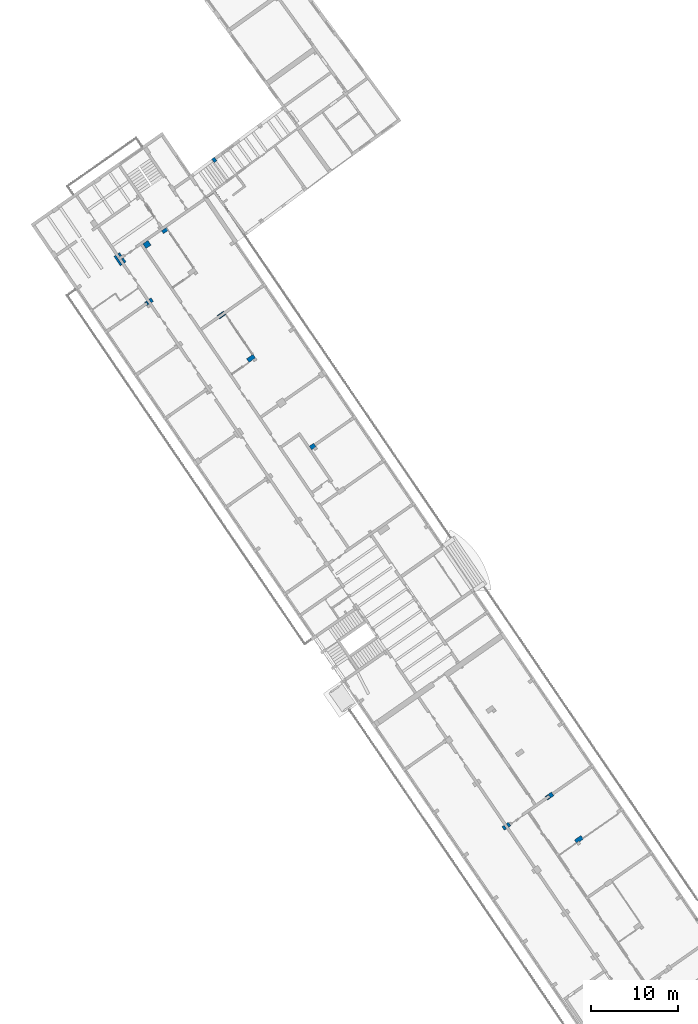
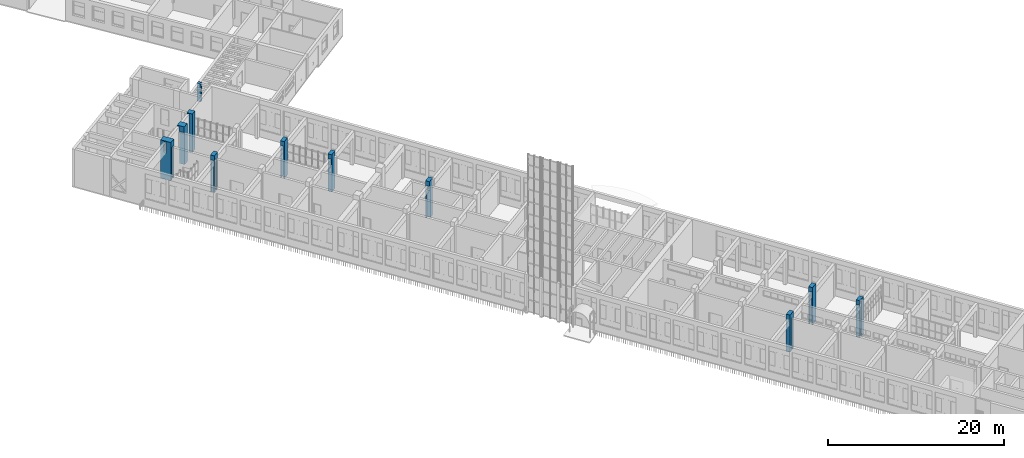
# One storey, part 115 of 157: 11 columns.
"""IFC2X3 building model written with IfcOpenShell, lengths in millimetres."""

from ifc_helpers import new_model, entity, si_unit, converted_unit, derived_unit, direction, frame, origin, place, context, subcontext, project, spatial, faceted_brep, source, transform, mapped, material, type_object, type_shapes, element, save


model = new_model("IFC2X3")

# Units and contexts
model_context = context("Model", 3, precision=0.01, world=origin(), true_north=direction((6.123031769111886e-17, 1.0)))
body_context = subcontext(model_context, "Body", "Model", "MODEL_VIEW")
ifc_project = project(units=[si_unit("LENGTHUNIT", "METRE", prefix="MILLI"), si_unit("AREAUNIT", "SQUARE_METRE"), si_unit("VOLUMEUNIT", "CUBIC_METRE"), converted_unit("PLANEANGLEUNIT", "DEGREE", entity("IfcRatioMeasure", 0.017453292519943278), si_unit("PLANEANGLEUNIT", "RADIAN"), dimensions=[0, 0, 0, 0, 0, 0, 0]), si_unit("MASSUNIT", "GRAM", prefix="KILO"), derived_unit("MASSDENSITYUNIT", [(si_unit("MASSUNIT", "GRAM", prefix="KILO"), 1), (si_unit("LENGTHUNIT", "METRE"), -3)]), derived_unit("MOMENTOFINERTIAUNIT", [(si_unit("LENGTHUNIT", "METRE"), 4)]), si_unit("TIMEUNIT", "SECOND"), si_unit("FREQUENCYUNIT", "HERTZ"), si_unit("THERMODYNAMICTEMPERATUREUNIT", "DEGREE_CELSIUS"), derived_unit("THERMALTRANSMITTANCEUNIT", [(si_unit("MASSUNIT", "GRAM", prefix="KILO"), 1), (si_unit("THERMODYNAMICTEMPERATUREUNIT", "KELVIN"), -1), (si_unit("TIMEUNIT", "SECOND"), -3)]), derived_unit("THERMALCONDUCTANCEUNIT", [(si_unit("MASSUNIT", "GRAM", prefix="KILO"), 1), (si_unit("LENGTHUNIT", "METRE"), 1), (si_unit("THERMODYNAMICTEMPERATUREUNIT", "KELVIN"), -1), (si_unit("TIMEUNIT", "SECOND"), -3)]), derived_unit("VOLUMETRICFLOWRATEUNIT", [(si_unit("LENGTHUNIT", "METRE"), 3), (si_unit("TIMEUNIT", "SECOND"), -1)]), derived_unit("MASSFLOWRATEUNIT", [(si_unit("MASSUNIT", "GRAM", prefix="KILO"), 1), (si_unit("TIMEUNIT", "SECOND"), -1)]), derived_unit("ROTATIONALFREQUENCYUNIT", [(si_unit("TIMEUNIT", "SECOND"), -1)]), si_unit("ELECTRICCURRENTUNIT", "AMPERE"), si_unit("ELECTRICVOLTAGEUNIT", "VOLT"), si_unit("POWERUNIT", "WATT"), converted_unit("FORCEUNIT", "KIP", entity("IfcRatioMeasure", 2.088543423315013e-05), si_unit("FORCEUNIT", "NEWTON"), dimensions=[1, 1, -2, 0, 0, 0, 0]), si_unit("ILLUMINANCEUNIT", "LUX"), si_unit("LUMINOUSFLUXUNIT", "LUMEN"), si_unit("LUMINOUSINTENSITYUNIT", "CANDELA"), derived_unit("USERDEFINED", [(si_unit("MASSUNIT", "GRAM", prefix="KILO"), -1), (si_unit("LENGTHUNIT", "METRE"), -2), (si_unit("TIMEUNIT", "SECOND"), 3), (si_unit("LUMINOUSFLUXUNIT", "LUMEN"), 1)]), derived_unit("USERDEFINED", [(si_unit("MASSUNIT", "GRAM", prefix="KILO"), 1), (si_unit("LENGTHUNIT", "METRE"), 3), (si_unit("TIMEUNIT", "SECOND"), -3), (si_unit("ELECTRICCURRENTUNIT", "AMPERE"), -2)]), derived_unit("USERDEFINED", [(si_unit("LENGTHUNIT", "METRE"), 2), (si_unit("TIMEUNIT", "SECOND"), -2)]), derived_unit("SOUNDPOWERUNIT", [(si_unit("MASSUNIT", "GRAM", prefix="KILO"), 1), (si_unit("LENGTHUNIT", "METRE"), 2), (si_unit("TIMEUNIT", "SECOND"), -3)]), derived_unit("SOUNDPRESSUREUNIT", [(si_unit("MASSUNIT", "GRAM", prefix="KILO"), 1), (si_unit("LENGTHUNIT", "METRE"), -1), (si_unit("TIMEUNIT", "SECOND"), -2)]), derived_unit("LINEARVELOCITYUNIT", [(si_unit("LENGTHUNIT", "METRE"), 1), (si_unit("TIMEUNIT", "SECOND"), -1)]), si_unit("PRESSUREUNIT", "PASCAL"), derived_unit("USERDEFINED", [(si_unit("LENGTHUNIT", "METRE"), -2), (si_unit("MASSUNIT", "GRAM", prefix="KILO"), 1), (si_unit("TIMEUNIT", "SECOND"), -2)]), derived_unit("LINEARFORCEUNIT", [(si_unit("MASSUNIT", "GRAM", prefix="KILO"), 1), (si_unit("LENGTHUNIT", "METRE"), 1), (si_unit("TIMEUNIT", "SECOND"), -2), (si_unit("LENGTHUNIT", "METRE"), -1)]), derived_unit("PLANARFORCEUNIT", [(si_unit("MASSUNIT", "GRAM", prefix="KILO"), 1), (si_unit("LENGTHUNIT", "METRE"), 1), (si_unit("TIMEUNIT", "SECOND"), -2), (si_unit("LENGTHUNIT", "METRE"), -2)]), derived_unit("SPECIFICHEATCAPACITYUNIT", [(si_unit("LENGTHUNIT", "METRE"), 2), (si_unit("TIMEUNIT", "SECOND"), -2), (si_unit("THERMODYNAMICTEMPERATUREUNIT", "KELVIN"), -1)]), derived_unit("VAPORPERMEABILITYUNIT", [(si_unit("TIMEUNIT", "SECOND"), 1), (si_unit("LENGTHUNIT", "METRE"), -1)]), derived_unit("DYNAMICVISCOSITYUNIT", [(si_unit("MASSUNIT", "GRAM", prefix="KILO"), 1), (si_unit("LENGTHUNIT", "METRE"), -1), (si_unit("TIMEUNIT", "SECOND"), -1)]), derived_unit("THERMALEXPANSIONCOEFFICIENTUNIT", [(si_unit("THERMODYNAMICTEMPERATUREUNIT", "KELVIN"), -1)])], contexts=[model_context])

# Site, building, storey
site_placement = place(None, frame((0.0, 0.0, 0.0), z_axis=(0.0, 0.0, 1.0), x_axis=(0.8191520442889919, 0.5735764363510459, 0.0)))
site = spatial("IfcSite", under=ifc_project, at=site_placement, Name="Default", CompositionType="ELEMENT")
building_placement = place(site_placement, origin())
building = spatial("IfcBuilding", under=site, at=building_placement, CompositionType="ELEMENT")
storey_placement = place(building_placement, origin())
storey = spatial("IfcBuildingStorey", under=building, at=storey_placement, Name="1.EG +0.00", CompositionType="ELEMENT", Elevation=-4.331468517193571e-12)

# Columns
ifc_material = material(Name="Analytical Wall Surface_CJC")
column_type_1 = type_object("IfcColumnType", Name="Columns_Rectangular:90x50", PredefinedType="COLUMN", material=ifc_material)
shared_shape_1 = source(origin(), body_context, "Body", "Brep", [
    faceted_brep([(0.0, 500.0, 5150.0), (0.0, 0.0, 5150.0), (900.0, 0.0, 5150.0), (900.0, 500.0, 5150.0), (0.0, 0.0, 0.0), (0.0, 500.0, 0.0), (303.397049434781, 500.0, 0.0), (297.02834928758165, 0.0, 0.0), (0.0, 74.50729659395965, 4500.0), (0.0, 74.50729659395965, 3700.0), (0.0, 424.5072965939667, 3700.0), (0.0, 424.5072965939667, 4500.0), (297.0283492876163, 0.0, 4500.0), (597.0526845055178, 0.0, 4500.0), (597.0526845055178, 0.0, 0.0), (900.0, 0.0, 0.0), (900.0, 100.47959039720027, 0.0), (900.0, 400.4795903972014, 0.0), (900.0, 500.0, 0.0), (603.4213846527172, 500.0, 0.0), (603.4213846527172, 500.0, 4500.0), (303.39704943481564, 500.0, 4500.0), (0.4438646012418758, 74.50729659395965, 4500.0), (0.4438646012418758, 74.50729659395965, 3700.0), (0.4438646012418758, 424.5072965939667, 3700.0), (0.4438646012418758, 424.5072965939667, 4500.0)], [[[0, 1, 2, 3]], [[4, 5, 6, 7]], [[1, 0, 5, 4], [8, 9, 10, 11]], [[2, 1, 4, 7, 12, 13, 14, 15]], [[3, 2, 15, 16, 17, 18]], [[0, 3, 18, 19, 20, 21, 6, 5]], [[22, 23, 9, 8]], [[24, 25, 11, 10]], [[23, 22, 25, 24]], [[25, 22, 8, 11]], [[23, 24, 10, 9]], [[13, 20, 19, 14]], [[21, 12, 7, 6]], [[20, 13, 12, 21]], [[18, 17, 16, 15, 14, 19]]]),
])
type_shapes(column_type_1, [shared_shape_1])
column_1_placement = place(storey_placement, frame((-217758.5320866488, 85145.87932395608, 0.0)))
element("IfcColumn", 1, at=column_1_placement, inside=storey, type_object=column_type_1, material=ifc_material, Name="Columns_Rectangular:90x50", ObjectType="Columns_Rectangular:90x50", context=body_context, shape_type="MappedRepresentation", body=[
    mapped(shared_shape_1, transform((0.0, 0.0, 0.0), scale=1.0)),
])
column_type_2 = type_object("IfcColumnType", Name="Columns_Rectangular:90x50", PredefinedType="COLUMN", material=ifc_material)
shared_shape_2 = source(origin(), body_context, "Body", "Brep", [
    faceted_brep([(900.0, 0.0, 5150.0), (900.0, 500.0, 5150.0), (0.0, 500.0, 5150.0), (0.0, 100.0, 5150.0), (348.0964844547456, 100.0, 5150.0), (346.8234225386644, 0.0, 5150.0), (0.0, 500.0, 0.0), (900.0, 500.0, 0.0), (900.0, 100.48614690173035, 0.0), (897.8147945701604, 100.48614690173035, 0.0), (897.8147945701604, 75.48614690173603, 0.0), (900.0, 75.48614690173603, 0.0), (900.0, 0.0, 0.0), (346.8234225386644, 0.0, 0.0), (348.0964844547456, 100.0, 0.0), (0.0, 100.0, 0.0), (0.0, 100.0, 3700.0), (0.0, 450.0, 3700.0), (0.0, 450.0, 4500.0), (0.0, 100.0, 4500.0), (900.0, 75.48614690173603, 3700.0), (900.0, 100.0, 3700.0), (900.0, 100.0, 4500.0), (900.0, 450.0, 4500.0), (900.0, 450.0, 3700.0), (900.0, 100.48614690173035, 3700.0), (897.8147945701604, 100.0, 3700.0), (348.0964844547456, 100.0, 3700.0), (348.0964844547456, 100.0, 4500.0), (897.8147945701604, 100.48614690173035, 3700.0), (897.8147945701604, 75.48614690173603, 3700.0)], [[[0, 1, 2, 3, 4, 5]], [[6, 7, 8, 9, 10, 11, 12, 13, 14, 15]], [[2, 6, 15, 16, 17, 18, 19, 3]], [[12, 0, 5, 13]], [[1, 0, 12, 11, 20, 21, 22, 23, 24, 25, 8, 7]], [[2, 1, 7, 6]], [[23, 18, 17, 24]], [[22, 21, 26, 27, 28]], [[24, 17, 16, 27, 26, 29, 25]], [[18, 23, 22, 28, 19]], [[30, 20, 11, 10]], [[9, 8, 25, 29]], [[20, 30, 26, 21]], [[4, 28, 27, 14, 13, 5]], [[14, 27, 16, 15]], [[30, 10, 9, 29, 26]], [[28, 4, 3, 19]]]),
])
type_shapes(column_type_2, [shared_shape_2])
column_2_placement = place(storey_placement, frame((-211834.42928408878, 79145.87276745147, 0.0)))
element("IfcColumn", 2, at=column_2_placement, inside=storey, type_object=column_type_2, material=ifc_material, Name="Columns_Rectangular:90x50", ObjectType="Columns_Rectangular:90x50", context=body_context, shape_type="MappedRepresentation", body=[
    mapped(shared_shape_2, transform((0.0, 0.0, 0.0), scale=1.0)),
])
column_type_3 = type_object("IfcColumnType", Name="Columns_Rectangular:90x50", PredefinedType="COLUMN", material=ifc_material)
shared_shape_3 = source(origin(), body_context, "Body", "Brep", [
    faceted_brep([(0.0, 500.0, 5150.0), (0.0, 0.0, 5150.0), (900.0, 0.0, 5150.0), (900.0, 500.0, 5150.0), (0.0, 500.0, 0.0), (900.0, 500.0, 0.0), (900.0, 400.0, 0.0), (900.0, 100.0, 0.0), (900.0, 0.0, 0.0), (0.0, 0.0, 0.0), (0.0, 100.0, 0.0), (450.0, 100.0, 0.0), (450.0, 400.0, 0.0), (0.0, 400.0, 0.0), (0.0, 400.0, 3700.0), (0.0, 425.0, 3700.0), (0.0, 425.0, 4500.0), (0.0, 75.0, 4500.0), (0.0, 75.0, 3700.0), (0.0, 100.0, 3700.0), (900.0, 425.0, 4500.0), (900.0, 425.0, 3700.0), (900.0, 400.0, 3700.0), (900.0, 100.0, 3700.0), (900.0, 75.0, 3700.0), (900.0, 75.0, 4500.0), (450.0, 400.0, 3700.0), (450.0, 100.0, 3700.0)], [[[0, 1, 2, 3]], [[4, 5, 6, 7, 8, 9, 10, 11, 12, 13]], [[1, 0, 4, 13, 14, 15, 16, 17, 18, 19, 10, 9]], [[2, 1, 9, 8]], [[3, 2, 8, 7, 6, 5], [20, 21, 22, 23, 24, 25]], [[0, 3, 5, 4]], [[20, 16, 15, 21]], [[24, 18, 17, 25]], [[21, 15, 14, 26, 27, 19, 18, 24, 23, 22]], [[16, 20, 25, 17]], [[12, 26, 14, 13]], [[27, 11, 10, 19]], [[26, 12, 11, 27]]]),
])
type_shapes(column_type_3, [shared_shape_3])
column_3_placement = place(storey_placement, frame((-211758.03938017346, 85146.35891435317, 0.0)))
element("IfcColumn", 3, at=column_3_placement, inside=storey, type_object=column_type_3, material=ifc_material, Name="Columns_Rectangular:90x50", ObjectType="Columns_Rectangular:90x50", context=body_context, shape_type="MappedRepresentation", body=[
    mapped(shared_shape_3, transform((0.0, 0.0, 0.0), scale=1.0)),
])
column_type_4 = type_object("IfcColumnType", Name="Columns_Rectangular:90x50", PredefinedType="COLUMN", material=ifc_material)
shared_shape_4 = source(origin(), body_context, "Body", "Brep", [
    faceted_brep([(0.0, 500.0, 5150.0), (0.0, 0.0, 5150.0), (900.0, 0.0, 5150.0), (900.0, 500.0, 5150.0), (900.0, 0.0, 0.0), (893.685448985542, 0.0, 0.0), (543.6854489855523, 0.0, 0.0), (0.0, 0.0, 0.0), (0.0, 25.0, 0.0), (0.0, 50.0, 0.0), (0.0, 500.0, 0.0), (878.246655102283, 500.0, 0.0), (900.0, 499.72553336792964, 0.0), (0.0, 425.0, 3700.0), (0.0, 425.0, 4500.0), (0.0, 75.0, 4500.0), (0.0, 75.0, 3700.0), (900.0, 499.72553336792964, 4350.0), (900.0, 500.0, 4350.0), (900.0, 425.0, 4500.0), (900.0, 425.0, 3700.0), (900.0, 75.0, 3700.0), (900.0, 75.0, 4500.0), (878.2466551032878, 500.0, 4350.0)], [[[0, 1, 2, 3]], [[4, 5, 6, 7, 8, 9, 10, 11, 12]], [[1, 0, 10, 9, 8, 7], [13, 14, 15, 16]], [[2, 1, 7, 6, 5, 4]], [[3, 2, 4, 12, 17, 18], [19, 20, 21, 22]], [[0, 3, 18, 23, 11, 10]], [[19, 14, 13, 20]], [[21, 16, 15, 22]], [[20, 13, 16, 21]], [[14, 19, 22, 15]], [[17, 23, 18]], [[23, 17, 12, 11]]]),
])
type_shapes(column_type_4, [shared_shape_4])
column_4_placement = place(storey_placement, frame((-210986.56385903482, 145746.35891435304, 0.0)))
element("IfcColumn", 4, at=column_4_placement, inside=storey, type_object=column_type_4, material=ifc_material, Name="Columns_Rectangular:90x50", ObjectType="Columns_Rectangular:90x50", context=body_context, shape_type="MappedRepresentation", body=[
    mapped(shared_shape_4, transform((0.0, 0.0, 0.0), scale=1.0)),
])
column_type_5 = type_object("IfcColumnType", Name="Columns_Rectangular:90x50", PredefinedType="COLUMN", material=ifc_material)
shared_shape_5 = source(origin(), body_context, "Body", "Brep", [
    faceted_brep([(0.0, 500.0, 5150.0), (0.0, 0.0, 5150.0), (900.0, 0.0, 5150.0), (900.0, 500.0, 5150.0), (900.0, 0.0, 0.0), (0.0, 0.0, 0.0), (0.0, 100.0, 0.0), (900.0, 100.0, 0.0), (0.0, 500.0, 0.0), (0.0, 400.0, 0.0), (0.0, 400.0, 3700.0), (0.0, 425.0, 3700.0), (0.0, 425.0, 4500.0), (0.0, 75.0, 4500.0), (0.0, 75.0, 3700.0), (0.0, 100.0, 3700.0), (900.0, 100.0, 3700.0), (900.0, 75.0, 3700.0), (900.0, 75.0, 4500.0), (900.0, 425.0, 4500.0), (900.0, 425.0, 3700.0), (900.0, 400.0, 3700.0), (900.0, 400.0, 0.0), (900.0, 500.0, 0.0)], [[[0, 1, 2, 3]], [[4, 5, 6, 7]], [[1, 0, 8, 9, 10, 11, 12, 13, 14, 15, 6, 5]], [[2, 1, 5, 4]], [[3, 2, 4, 7, 16, 17, 18, 19, 20, 21, 22, 23]], [[0, 3, 23, 8]], [[19, 12, 11, 20]], [[17, 14, 13, 18]], [[20, 11, 10, 21]], [[12, 19, 18, 13]], [[9, 22, 21, 10]], [[7, 6, 15, 16]], [[8, 23, 22, 9]], [[14, 17, 16, 15]]]),
])
type_shapes(column_type_5, [shared_shape_5])
column_5_placement = place(storey_placement, frame((-210910.18014407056, 151746.35891435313, 0.0)))
element("IfcColumn", 5, at=column_5_placement, inside=storey, type_object=column_type_5, material=ifc_material, Name="Columns_Rectangular:90x50", ObjectType="Columns_Rectangular:90x50", context=body_context, shape_type="MappedRepresentation", body=[
    mapped(shared_shape_5, transform((0.0, 0.0, 0.0), scale=1.0)),
])
column_type_6 = type_object("IfcColumnType", Name="Columns_Rectangular:90x50", PredefinedType="COLUMN", material=ifc_material)
shared_shape_6 = source(origin(), body_context, "Body", "Brep", [
    faceted_brep([(0.0, 500.0, 5150.0), (0.0, 0.0, 5150.0), (900.0, 0.0, 5150.0), (900.0, 500.0, 5150.0), (0.0, 398.0554123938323, 0.0), (0.0, 500.0, 0.0), (303.4014386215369, 500.0, 0.0), (297.0361290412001, 0.0, 0.0), (0.0, 0.0, 0.0), (0.0, 98.05541239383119, 0.0), (150.206182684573, 98.05541239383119, 0.0), (150.206182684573, 398.0554123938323, 0.0), (0.0, 398.0554123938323, 3700.0), (0.0, 423.05541239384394, 3700.0), (0.0, 423.05541239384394, 4500.0), (0.0, 73.05541239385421, 4500.0), (0.0, 73.05541239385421, 3700.0), (0.0, 98.05541239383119, 3700.0), (297.03612904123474, 0.0, 4500.0), (597.0604383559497, 0.0, 4500.0), (597.0604383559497, 0.0, 0.0), (900.0, 0.0, 0.0), (900.0, 500.0, 0.0), (900.0, 75.0, 3700.0), (900.0, 75.0, 4500.0), (900.0, 425.0, 4500.0), (900.0, 425.0, 3700.0), (603.4257479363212, 500.0, 0.0), (603.4257479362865, 500.0, 4500.0), (303.4014386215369, 500.0, 4500.0), (150.206182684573, 398.0554123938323, 3700.0), (598.0152347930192, 75.0, 3700.0), (598.0152347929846, 75.0, 4500.0), (602.4709514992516, 425.0, 3700.0), (602.4709514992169, 425.0, 4500.0), (150.20618268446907, 423.05541239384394, 3700.0), (150.20618268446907, 423.05541239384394, 4500.0), (150.20618268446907, 73.05541239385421, 3700.0), (150.206182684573, 98.05541239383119, 3700.0), (150.20618268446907, 73.05541239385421, 4500.0)], [[[0, 1, 2, 3]], [[4, 5, 6, 7, 8, 9, 10, 11]], [[1, 0, 5, 4, 12, 13, 14, 15, 16, 17, 9, 8]], [[2, 1, 8, 7, 18, 19, 20, 21]], [[3, 2, 21, 22], [23, 24, 25, 26]], [[0, 3, 22, 27, 28, 29, 6, 5]], [[4, 11, 30, 12]], [[23, 31, 32, 24]], [[31, 23, 26, 33]], [[24, 32, 34, 25]], [[19, 32, 31, 33, 34, 28, 27, 20]], [[29, 18, 7, 6]], [[32, 19, 18, 29, 28, 34]], [[22, 21, 20, 27]], [[25, 34, 33, 26]], [[35, 36, 14, 13]], [[37, 38, 17, 16]], [[38, 10, 9, 17]], [[10, 38, 30, 11]], [[39, 37, 16, 15]], [[37, 39, 36, 35, 30, 38]], [[36, 39, 15, 14]], [[30, 35, 13, 12]]]),
])
type_shapes(column_type_6, [shared_shape_6])
column_6_placement = place(storey_placement, frame((-216834.28261540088, 157746.3589143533, 0.0)))
element("IfcColumn", 6, at=column_6_placement, inside=storey, type_object=column_type_6, material=ifc_material, Name="Columns_Rectangular:90x50", ObjectType="Columns_Rectangular:90x50", context=body_context, shape_type="MappedRepresentation", body=[
    mapped(shared_shape_6, transform((0.0, 0.0, 0.0), scale=1.0)),
])
column_type_7 = type_object("IfcColumnType", Name="Columns_Rectangular:90x50", PredefinedType="COLUMN", material=ifc_material)
shared_shape_7 = source(origin(), body_context, "Body", "Brep", [
    faceted_brep([(0.0, 500.0, 5150.0), (0.0, 0.0, 5150.0), (550.0, 0.0, 5150.0), (900.0, 0.0, 5150.0), (900.0, 500.0, 5150.0), (0.0, 500.0, 0.0), (2.4627358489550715, 500.0, 0.0), (0.0, 312.6233023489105, 0.0), (0.0, 312.6233023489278, 3700.0), (0.0, 425.0, 3700.0), (0.0, 425.0, 4500.0), (0.0, 312.6233023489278, 4500.0), (0.0, 75.0, 4500.0), (0.0, 0.0, 4500.0), (295.91702924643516, 0.0, 4500.0), (295.91702924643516, 0.0, 0.0), (550.0, 0.0, 0.0), (900.0, 0.0, 0.0), (900.0, 100.0, 0.0), (900.0, 400.0, 0.0), (900.0, 500.0, 0.0), (900.0, 425.0, 4500.0), (900.0, 425.0, 3700.0), (900.0, 400.0, 3700.0), (900.0, 100.0, 3700.0), (900.0, 75.0, 3700.0), (900.0, 75.0, 4500.0), (302.48864642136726, 500.0, 0.0), (302.4886464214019, 500.0, 4500.0), (2.46273584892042, 500.0, 4500.0), (301.502903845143, 425.0, 4500.0), (301.502903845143, 425.0, 3700.0), (296.90277182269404, 75.0, 3700.0), (296.90277182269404, 75.0, 4500.0), (1.4769932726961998, 425.0, 4500.0), (1.4769932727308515, 425.0, 3700.0)], [[[0, 1, 2, 3, 4]], [[5, 6, 7]], [[1, 0, 5, 7, 8, 9, 10, 11, 12, 13]], [[3, 2, 1, 13, 14, 15, 16, 17]], [[4, 3, 17, 18, 19, 20], [21, 22, 23, 24, 25, 26]], [[0, 4, 20, 27, 28, 29, 6, 5]], [[22, 21, 30, 31]], [[26, 25, 32, 33]], [[25, 24, 23, 22, 31, 32]], [[21, 26, 33, 12, 11, 10, 34, 30]], [[14, 33, 32, 31, 30, 28, 27, 15]], [[28, 30, 34, 29]], [[29, 34, 35, 8, 7, 6]], [[20, 19, 18, 17, 16, 15, 27]], [[9, 8, 35]], [[33, 14, 13, 12]], [[10, 9, 35, 34]]]),
])
type_shapes(column_type_7, [shared_shape_7])
column_7_placement = place(storey_placement, frame((-211143.15047471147, 133446.3589143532, 0.0)))
element("IfcColumn", 7, at=column_7_placement, inside=storey, type_object=column_type_7, material=ifc_material, Name="Columns_Rectangular:90x50", ObjectType="Columns_Rectangular:90x50", context=body_context, shape_type="MappedRepresentation", body=[
    mapped(shared_shape_7, transform((0.0, 0.0, 0.0), scale=1.0)),
])
column_type_8 = type_object("IfcColumnType", Name="Columns_Rectangular:130x80", PredefinedType="COLUMN", material=ifc_material)
shared_shape_8 = source(origin(), body_context, "Body", "Brep", [
    faceted_brep([(816.4836443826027, 1299.894668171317, 5300.0), (16.548463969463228, 1310.07833830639, 5300.0), (0.0, 10.183670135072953, 5300.0), (799.9351804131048, 0.0, 5300.0), (0.0, 10.183670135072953, 0.0), (16.548463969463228, 1310.07833830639, 0.0), (269.30482016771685, 1306.8605933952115, 0.0), (263.9366118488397, 885.1836701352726, 0.0), (260.11742610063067, 585.1836701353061, 0.0), (252.75635619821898, 6.965925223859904, 0.0), (816.4836443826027, 1299.894668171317, 0.0), (569.2805128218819, 1303.0417170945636, 0.0), (569.2805128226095, 1303.0417170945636, 5150.0), (269.3048201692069, 1306.8605933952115, 5150.0), (11.775822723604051, 935.1836701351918, 5150.0), (7.3201060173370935, 585.1836701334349, 5150.0), (7.320106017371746, 585.1836701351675, 3700.0), (11.775822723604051, 935.1836701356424, 3700.0), (252.75635619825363, 6.965925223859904, 4500.0), (552.7320488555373, 3.1470489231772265, 4500.0), (552.7320488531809, 3.147048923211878, 0.0), (799.9351804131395, 0.0, 0.0), (807.3849308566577, 585.183670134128, 0.0), (807.3849308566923, 585.1836701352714, 5150.0), (811.2041166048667, 885.1836701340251, 5150.0), (811.204116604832, 885.1836701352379, 0.0), (560.1417354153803, 585.1836701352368, 0.0), (560.1417354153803, 585.1836701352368, 4500.0), (412.3574391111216, 585.1836701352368, 4500.0), (412.03917363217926, 585.1836701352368, 4500.0), (412.03917363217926, 585.1836701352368, 5150.0), (412.3574391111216, 585.1836701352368, 5150.0), (412.03917363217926, 885.1836701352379, 5150.0), (412.3574391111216, 885.1836701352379, 5150.0), (563.9609211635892, 885.1836701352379, 5150.0), (260.11742610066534, 585.1836701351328, 3700.0), (260.11742610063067, 585.1836701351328, 4500.0), (263.9366118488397, 885.1836701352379, 3700.0), (264.57314280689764, 935.1836701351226, 3700.0), (264.57314280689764, 935.1836701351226, 5150.0), (412.3574391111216, 935.1836701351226, 5150.0), (563.9609211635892, 885.1836701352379, 3700.0), (563.9609211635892, 885.1836701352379, 0.0), (264.57314280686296, 935.1836701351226, 4500.0), (412.3574391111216, 935.1836701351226, 3700.0), (412.03917363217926, 885.1836701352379, 3700.0), (412.3574391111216, 935.1836701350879, 4500.0), (412.03917363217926, 885.1836701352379, 4500.0), (263.9366118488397, 885.1836701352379, 4500.0)], [[[0, 1, 2, 3]], [[4, 5, 6, 7, 8, 9]], [[1, 0, 10, 11, 12, 13, 6, 5]], [[2, 1, 5, 4], [14, 15, 16, 17]], [[3, 2, 4, 9, 18, 19, 20, 21]], [[0, 3, 21, 22, 23, 24, 25, 10]], [[23, 22, 26, 27, 28, 29, 30, 31]], [[24, 23, 31, 30, 32, 33, 34]], [[35, 16, 15, 30, 29, 36]], [[16, 35, 37, 38, 17]], [[15, 14, 39, 40, 33, 32, 30]], [[25, 24, 34, 41, 42]], [[17, 38, 43, 39, 14]], [[19, 27, 26, 20]], [[36, 18, 9, 8, 35]], [[27, 19, 18, 36, 29, 28]], [[22, 21, 20, 26]], [[34, 12, 11, 42, 41]], [[38, 37, 7, 6, 13, 39, 43]], [[12, 34, 33, 40, 39, 13]], [[10, 25, 42, 11]], [[8, 7, 37, 35]], [[37, 38, 44, 45]], [[45, 44, 46, 47]], [[44, 38, 43, 46]], [[43, 48, 47, 46]], [[43, 38, 37, 48]], [[47, 48, 37, 45]]]),
])
type_shapes(column_type_8, [shared_shape_8])
column_8_placement = place(storey_placement, frame((-216720.02540105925, 163236.1752442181, 0.0)))
element("IfcColumn", 8, at=column_8_placement, inside=storey, type_object=column_type_8, material=ifc_material, Name="Columns_Rectangular:130x80", ObjectType="Columns_Rectangular:130x80", context=body_context, shape_type="MappedRepresentation", body=[
    mapped(shared_shape_8, transform((0.0, 0.0, 0.0), scale=1.0)),
])
column_type_9 = type_object("IfcColumnType", Name="Columns_Rectangular:90x80", PredefinedType="COLUMN", material=ifc_material)
shared_shape_9 = source(origin(), body_context, "Body", "Brep", [
    faceted_brep([(811.3918093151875, 899.9270779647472, 5300.0), (11.456628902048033, 910.1107480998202, 5300.0), (0.0, 10.183670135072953, 5300.0), (799.9351804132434, 0.0, 5300.0), (799.9351804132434, 0.0, 0.0), (99.97974486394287, 8.910866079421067, 0.0), (108.141206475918, 650.0, 0.0), (808.2100828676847, 650.0, 0.0), (811.3918093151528, 899.9270779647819, 5150.0), (11.456628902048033, 910.1107480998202, 5150.0), (8.145258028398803, 650.0, 5150.0), (8.145258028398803, 650.0, 4500.0), (0.0, 10.183670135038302, 4500.0), (99.97974486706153, 8.910866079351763, 4500.0), (808.2100828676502, 650.0, 5150.0), (108.14120647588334, 650.0, 4500.0)], [[[0, 1, 2, 3]], [[4, 5, 6, 7]], [[1, 0, 8, 9]], [[2, 1, 9, 10, 11, 12]], [[3, 2, 12, 13, 5, 4]], [[0, 3, 4, 7, 14, 8]], [[13, 15, 6, 5]], [[15, 13, 12, 11]], [[10, 14, 7, 6, 15, 11]], [[14, 10, 9, 8]]]),
])
type_shapes(column_type_9, [shared_shape_9])
column_9_placement = place(storey_placement, frame((-213268.02487211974, 163171.35891435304, 0.0)))
element("IfcColumn", 9, at=column_9_placement, inside=storey, type_object=column_type_9, material=ifc_material, Name="Columns_Rectangular:90x80", ObjectType="Columns_Rectangular:90x80", context=body_context, shape_type="MappedRepresentation", body=[
    mapped(shared_shape_9, transform((0.0, 0.0, 0.0), scale=1.0)),
])
column_type_10 = type_object("IfcColumnType", Name="Columns_Rectangular:70x70", PredefinedType="COLUMN", material=ifc_material)
shared_shape_10 = source(origin(), body_context, "Body", "Brep", [
    faceted_brep([(0.0, 700.0, 5300.0), (0.0, 0.0, 5300.0), (700.0, 0.0, 5300.0), (700.0, 700.0, 5300.0), (700.0, 0.0, 0.0), (0.0, 0.0, 0.0), (0.0, 400.0, 0.0), (700.0, 400.0, 0.0), (0.0, 700.0, 5150.0), (0.0, 400.0, 5150.0), (700.0, 400.0, 5150.0), (700.0, 700.0, 5150.0)], [[[0, 1, 2, 3]], [[4, 5, 6, 7]], [[1, 0, 8, 9, 6, 5]], [[2, 1, 5, 4]], [[3, 2, 4, 7, 10, 11]], [[0, 3, 11, 8]], [[9, 10, 7, 6]], [[10, 9, 8, 11]]]),
])
type_shapes(column_type_10, [shared_shape_10])
column_10_placement = place(storey_placement, frame((-210564.75307792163, 163421.3589143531, 0.0)))
element("IfcColumn", 10, at=column_10_placement, inside=storey, type_object=column_type_10, material=ifc_material, Name="Columns_Rectangular:70x70", ObjectType="Columns_Rectangular:70x70", context=body_context, shape_type="MappedRepresentation", body=[
    mapped(shared_shape_10, transform((0.0, 0.0, 0.0), scale=1.0)),
])
column_type_11 = type_object("IfcColumnType", Name="Columns_Rectangular:37.75x50", PredefinedType="COLUMN", material=ifc_material)
shared_shape_11 = source(origin(), body_context, "Body", "Brep", [
    faceted_brep([(0.0, 499.78749612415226, 2500.0), (14.575963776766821, 2.0444531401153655e-09, 2500.0), (12.251203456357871, 149.99597821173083, 2500.0), (312.1516745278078, 158.74237230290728, 2500.0), (314.4764348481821, 8.746394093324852, 2500.0), (391.9155233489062, 11.004852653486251, 2500.0), (377.33955957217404, 510.79234877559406, 2500.0), (0.0, 499.78749612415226, 0.0), (377.33955957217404, 510.79234877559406, 0.0), (391.9155233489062, 11.004852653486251, 0.0), (14.57596377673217, 2.079104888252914e-09, 0.0), (14.575963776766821, 0.0, 2250.0), (314.47643484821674, 8.746394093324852, 2250.0), (312.1516745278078, 158.74237230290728, 2250.0), (12.251203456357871, 149.99597821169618, 2250.0)], [[[0, 1, 2, 3, 4, 5, 6]], [[7, 8, 9, 10]], [[1, 0, 7, 10, 11]], [[10, 9, 5, 4, 12, 11]], [[6, 5, 9, 8]], [[0, 6, 8, 7]], [[3, 13, 12, 4]], [[14, 2, 1, 11]], [[13, 14, 11, 12]], [[13, 3, 2, 14]]]),
])
type_shapes(column_type_11, [shared_shape_11])
column_11_placement = place(storey_placement, frame((-201153.95875066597, 166757.24260402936, 0.0)))
element("IfcColumn", 11, at=column_11_placement, inside=storey, type_object=column_type_11, material=ifc_material, Name="Columns_Rectangular:37.75x50", ObjectType="Columns_Rectangular:37.75x50", context=body_context, shape_type="MappedRepresentation", body=[
    mapped(shared_shape_11, transform((0.0, 0.0, 0.0), scale=1.0)),
])

save(model, "model.ifc")
